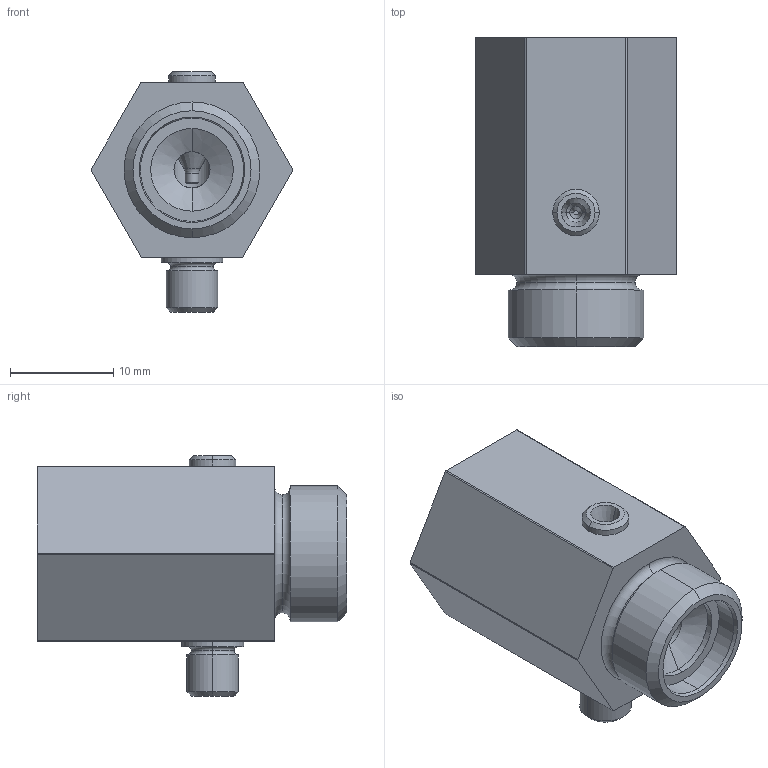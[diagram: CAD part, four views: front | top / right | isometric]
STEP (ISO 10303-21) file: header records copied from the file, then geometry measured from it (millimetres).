
FILE_DESCRIPTION (( 'STEP AP203' ), '1' );
FILE_NAME ('2EJR17L14040C0.step', '2017-04-13T14:56:51', ( '' ), ( '' ), 'SwSTEP 2.0', 'SolidWorks 2010', '' );
FILE_SCHEMA (( 'CONFIG_CONTROL_DESIGN' ));
Length unit declared in the file: millimetre
Products named in the file (4): 2EJR17L14040C0; Corps 2EJR17_CORPS COURT 14; BUSE 2EJR17_BUSE EJR 17_04; MELANGEUR 2EJR17_3D buse 04
Assembly tree (3 placements, depth 2):
  2EJR17L14040C0
    Corps 2EJR17_CORPS COURT 14
    MELANGEUR 2EJR17_3D buse 04
    BUSE 2EJR17_BUSE EJR 17_04
Bounding box: 19.55 x 30 x 23.3 mm (x, y, z)
Volume: 4880.8 mm3; surface area: 3437.4 mm2
Topology: 3 solids, 3 shells, 146 faces, 328 edges, 192 vertices
Faces by surface type: cylinder 63, cone 40, plane 23, torus 20
Entity records: 4638 total; most frequent: CARTESIAN_POINT 888, DIRECTION 772, ORIENTED_EDGE 656, EDGE_CURVE 328, AXIS2_PLACEMENT_3D 324, VERTEX_POINT 192, CIRCLE 172, EDGE_LOOP 166
